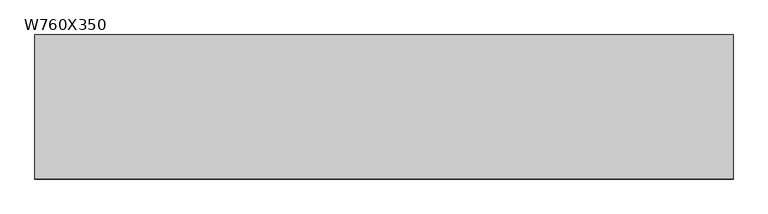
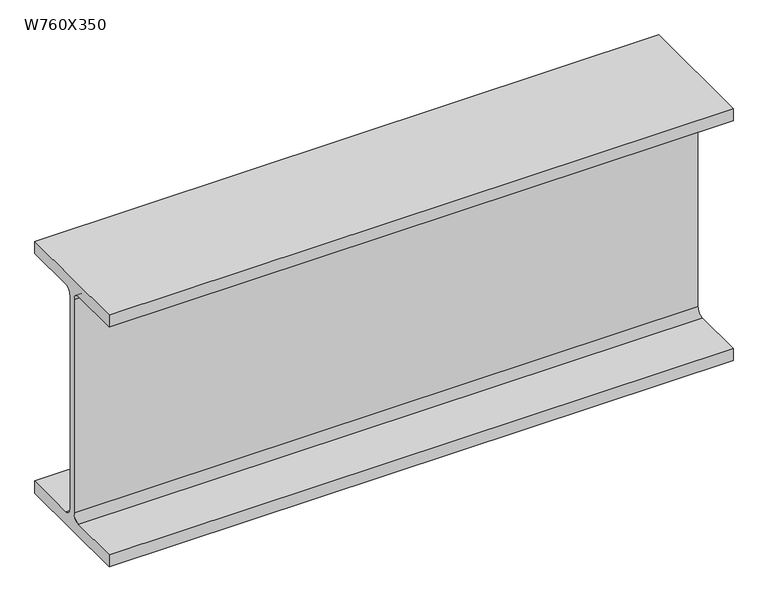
"""IFC4 building model written with IfcOpenShell, lengths in millimetres: beam geometry, M_W-Wide Flange : W760X350."""

from ifc_helpers import new_model, si_unit, point, frame, frame_2d, origin, place, context, project, spatial, polyline, circle_curve, trimmed, segment, composite_curve, outline, extrude, source, transform, mapped, element, save


def w760x350_981adb13(model_context):
    return source(origin(), model_context, "Body", "SweptSolid", [
        extrude(outline(composite_curve([segment(polyline([(192.0, -359.4), (192.0, -397.5), (-192.0, -397.5), (-192.0, -359.4), (-32.75, -359.4)]), True, "CONTINUOUS"), segment(trimmed(circle_curve(frame_2d((-32.75, -337.2)), 22.2), [point((-32.75, -359.4))], [point((-10.55, -337.2))], True, "CARTESIAN"), True, "CONTINUOUS"), segment(polyline([(-10.55, -337.2), (-10.55, 337.2)]), True, "CONTINUOUS"), segment(trimmed(circle_curve(frame_2d((-32.75, 337.2)), 22.2), [point((-10.55, 337.2))], [point((-32.75, 359.4))], True, "CARTESIAN"), True, "CONTINUOUS"), segment(polyline([(-32.75, 359.4), (-192.0, 359.4), (-192.0, 397.5), (192.0, 397.5), (192.0, 359.4), (32.75, 359.4)]), True, "CONTINUOUS"), segment(trimmed(circle_curve(frame_2d((32.75, 337.2)), 22.2), [point((32.75, 359.4))], [point((10.55, 337.2))], True, "CARTESIAN"), True, "CONTINUOUS"), segment(polyline([(10.55, 337.2), (10.55, -337.2)]), True, "CONTINUOUS"), segment(trimmed(circle_curve(frame_2d((32.75, -337.2)), 22.2), [point((10.55, -337.2))], [point((32.75, -359.4))], True, "CARTESIAN"), True, "CONTINUOUS"), segment(polyline([(32.75, -359.4), (192.0, -359.4)]), True, "CONTINUOUS")], self_intersect=False)), frame((-852.9655339, 0.0, 0.0), z_axis=(1.0, 0.0, 0.0), x_axis=(0.0, 1.0, 0.0)), (0.0, 0.0, 1.0), 1861.2599278),
    ])


if __name__ == "__main__":
    model = new_model("IFC4")
    model_context = context("Model", 3, world=origin())
    ifc_project = project(units=[si_unit("LENGTHUNIT", "METRE", prefix="MILLI")], contexts=[model_context])
    site = spatial("IfcSite", under=ifc_project)
    building = spatial("IfcBuilding", under=site)
    placement = place(None, origin())
    w760x350_shape = w760x350_981adb13(model_context)
    element("IfcBeam", 1, ObjectType="M_W-Wide Flange : W760X350", at=placement, inside=building, context=model_context, shape_type="MappedRepresentation", body=[
        mapped(w760x350_shape, transform((0.0, 0.0, 0.0), x_axis=(1.0, 0.0, 0.0), y_axis=(0.0, 1.0, 0.0), z_axis=(0.0, 0.0, 1.0))),
    ])
    save(model, "model.ifc")
